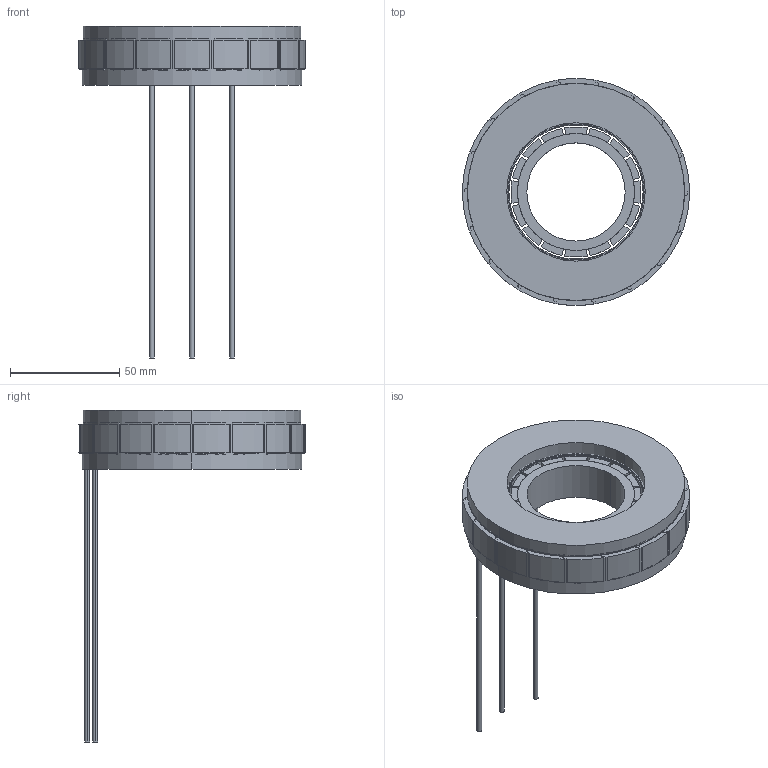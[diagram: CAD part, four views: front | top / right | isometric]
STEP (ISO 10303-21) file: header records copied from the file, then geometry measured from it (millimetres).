
FILE_DESCRIPTION (( 'STEP AP203' ), '1' );
FILE_NAME ('307080356SS（FMC10414-0038-2445H-8DK00）-V1.0.STEP', '2022-12-06T10:06:08', ( 'muse' ), ( 'muse' ), 'SwSTEP 2.0', 'SolidWorks 2022', '' );
FILE_SCHEMA (( 'CONFIG_CONTROL_DESIGN' ));
Length unit declared in the file: millimetre
Products named in the file (6): 307080356SS（FMC10414-0038-2445H-8DK00）-V1.0; 10108010097 定子铁芯（104L13.3-18Z(B35A300)）-V1.5; 线包104（125）; 10108040054转子铁芯（104L17.78-16P(40Cr电镀)）-V1.2; 104包胶; 磁钢104（17.78）
Assembly tree (54 placements, depth 2):
  307080356SS（FMC10414-0038-2445H-8DK00）-V1.0
    104包胶  x18
    10108010097 定子铁芯（104L13.3-18Z(B35A300)）-V1.5  x18
    线包104（125）
    10108040054转子铁芯（104L17.78-16P(40Cr电镀)）-V1.2
    磁钢104（17.78）  x16
Bounding box: 103.99 x 103.85 x 152.1 mm (x, y, z)
Volume: 144830.4 mm3; surface area: 105941.9 mm2
Topology: 73 solids, 73 shells, 1779 faces, 4998 edges, 3332 vertices
Faces by surface type: cylinder 914, plane 865
Entity records: 6132 total; most frequent: DIRECTION 830, CARTESIAN_POINT 732, ORIENTED_EDGE 660, EDGE_CURVE 330, AXIS2_PLACEMENT_3D 318, VERTEX_POINT 220, LINE 194, VECTOR 194
